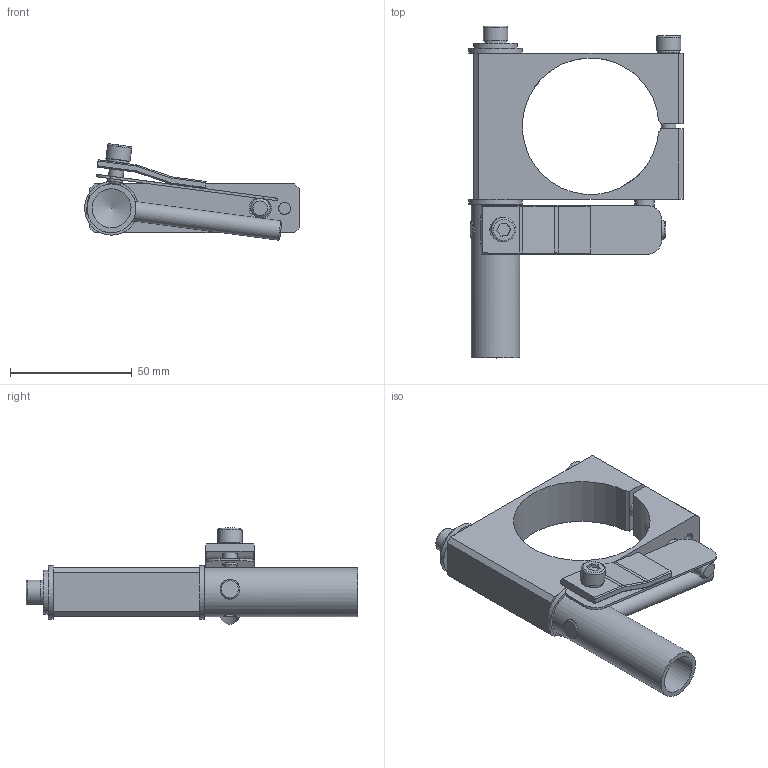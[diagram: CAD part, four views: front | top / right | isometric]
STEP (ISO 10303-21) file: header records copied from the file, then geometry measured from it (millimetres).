
FILE_DESCRIPTION(('STEP AP214'),'1');
FILE_NAME('CA.STA.56.stp','2018-06-05T12:09:57',(' '),(' '),'Spatial InterOp 3D',' ',' ');
FILE_SCHEMA(('AUTOMOTIVE_DESIGN { 1 0 10303 214 1 1 1 1 }'));
Length unit declared in the file: millimetre
Products named in the file (16): CA.STA.56; STA.56.04.L; STA.56.02; V.TCE6x45; R.6.SCH; GR.5X6; V.TCE6x10; STA.56.03; SP.8x30; STA.56.06; V.TCE6x18; R.6.18; PSP.15x22x02; STA.56.05; EGB.141610; STA.56.01
Assembly tree (19 placements, depth 2):
  CA.STA.56
    STA.56.04.L
    STA.56.02
    V.TCE6x45
    R.6.SCH  x3
    GR.5X6
    V.TCE6x10
    STA.56.03
    SP.8x30
    STA.56.06
    V.TCE6x18
    R.6.18
    PSP.15x22x02  x2
    STA.56.05
    EGB.141610  x2
    STA.56.01
Bounding box: 88 x 136.1 x 39.53 mm (x, y, z)
Volume: 73597.5 mm3; surface area: 45048.6 mm2
Topology: 19 solids, 19 shells, 769 faces, 2170 edges, 1435 vertices
Faces by surface type: plane 678, cylinder 56, cone 29, torus 6
Full cylindrical faces by diameter (mm): 4.2 x1, 5 x6, 5.5 x1, 6 x5, 6.2 x3, 6.5 x2, 7 x1, 8 x4, 8.1 x2, 9 x3, 10 x3, 14 x4, 15 x2, 16 x4, 18 x1, 20 x1, 22 x2
Entity records: 15287 total; most frequent: CARTESIAN_POINT 2860, DIRECTION 1954, ORIENTED_EDGE 1792, EDGE_CURVE 896, AXIS2_PLACEMENT_3D 692, VERTEX_POINT 632, LINE 570, VECTOR 570
